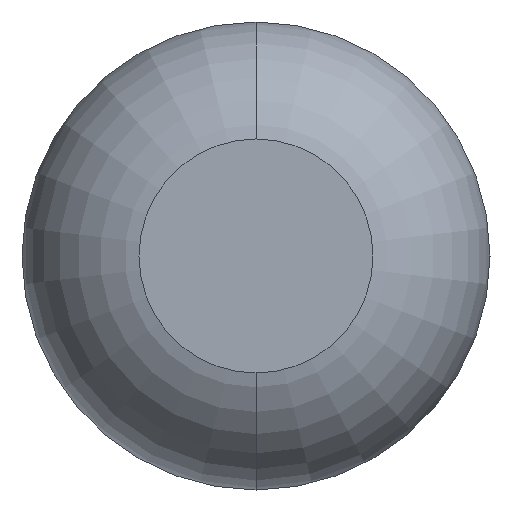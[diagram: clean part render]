
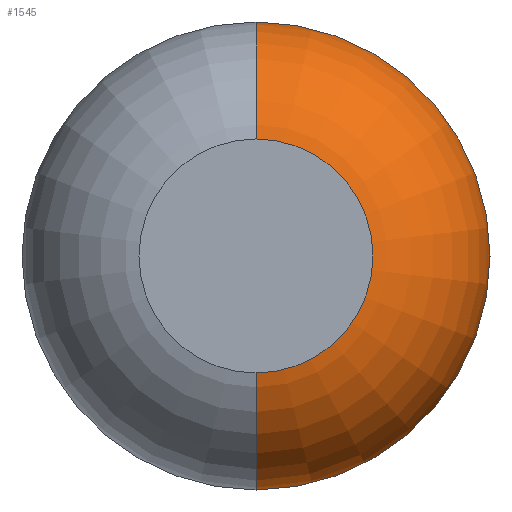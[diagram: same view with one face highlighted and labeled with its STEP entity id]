
A CAD part, front view. The second image highlights one B-rep face of the part: STEP entity #1545.
In plain terms, the highlighted toroidal (fillet/blend) face has major radius 20 mm and minor radius 40 mm.
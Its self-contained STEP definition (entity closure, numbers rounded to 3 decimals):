
#206 = ORIENTED_EDGE ( 'NONE', *, *, #2215, .F. ) ;
#228 = AXIS2_PLACEMENT_3D ( 'NONE', #661, #3096, #1642 ) ;
#269 = FACE_OUTER_BOUND ( 'NONE', #1591, .T. ) ;
#283 = CARTESIAN_POINT ( 'NONE',  ( 0., 0., 20. ) ) ;
#294 = CIRCLE ( 'NONE', #697, 60. ) ;
#297 = AXIS2_PLACEMENT_3D ( 'NONE', #1852, #635, #2092 ) ;
#477 = CARTESIAN_POINT ( 'NONE',  ( 0., 40., -20. ) ) ;
#486 = VERTEX_POINT ( 'NONE', #2648 ) ;
#635 = DIRECTION ( 'NONE',  ( 0., -1., 0. ) ) ;
#661 = CARTESIAN_POINT ( 'NONE',  ( 0., 40., 20. ) ) ;
#697 = AXIS2_PLACEMENT_3D ( 'NONE', #1523, #2577, #3045 ) ;
#1088 = EDGE_CURVE ( 'NONE', #2206, #486, #294, .T. ) ;
#1120 = CARTESIAN_POINT ( 'NONE',  ( 0., 0., -20. ) ) ;
#1247 = CARTESIAN_POINT ( 'NONE',  ( 0., 40., 0. ) ) ;
#1266 = CIRCLE ( 'NONE', #297, 20. ) ;
#1437 = DIRECTION ( 'NONE',  ( 0., -1., 0. ) ) ;
#1453 = DIRECTION ( 'NONE',  ( -1., 0., 0. ) ) ;
#1523 = CARTESIAN_POINT ( 'NONE',  ( 0., 40., 0. ) ) ;
#1526 = AXIS2_PLACEMENT_3D ( 'NONE', #1247, #1437, #1734 ) ;
#1545 = ADVANCED_FACE ( 'NONE', ( #269 ), #2919, .T. ) ;
#1586 = ORIENTED_EDGE ( 'NONE', *, *, #3114, .T. ) ;
#1591 = EDGE_LOOP ( 'NONE', ( #1618, #1586, #206, #1975 ) ) ;
#1618 = ORIENTED_EDGE ( 'NONE', *, *, #1088, .T. ) ;
#1638 = CARTESIAN_POINT ( 'NONE',  ( 0., 40., -60. ) ) ;
#1642 = DIRECTION ( 'NONE',  ( 0., 0., -1. ) ) ;
#1716 = VERTEX_POINT ( 'NONE', #283 ) ;
#1734 = DIRECTION ( 'NONE',  ( 0., 0., -1. ) ) ;
#1815 = VERTEX_POINT ( 'NONE', #1120 ) ;
#1852 = CARTESIAN_POINT ( 'NONE',  ( 0., 0., 0. ) ) ;
#1975 = ORIENTED_EDGE ( 'NONE', *, *, #2790, .F. ) ;
#2092 = DIRECTION ( 'NONE',  ( 0., 0., -1. ) ) ;
#2206 = VERTEX_POINT ( 'NONE', #1638 ) ;
#2215 = EDGE_CURVE ( 'NONE', #1815, #1716, #1266, .T. ) ;
#2236 = AXIS2_PLACEMENT_3D ( 'NONE', #477, #1453, #2444 ) ;
#2444 = DIRECTION ( 'NONE',  ( 0., 0., 1. ) ) ;
#2544 = CIRCLE ( 'NONE', #228, 40. ) ;
#2577 = DIRECTION ( 'NONE',  ( 0., -1., 0. ) ) ;
#2648 = CARTESIAN_POINT ( 'NONE',  ( 0., 40., 60. ) ) ;
#2790 = EDGE_CURVE ( 'NONE', #2206, #1815, #3159, .T. ) ;
#2919 = TOROIDAL_SURFACE ( 'NONE', #1526, 20., 40. ) ;
#3045 = DIRECTION ( 'NONE',  ( 0., 0., -1. ) ) ;
#3096 = DIRECTION ( 'NONE',  ( 1., 0., 0. ) ) ;
#3114 = EDGE_CURVE ( 'NONE', #486, #1716, #2544, .T. ) ;
#3159 = CIRCLE ( 'NONE', #2236, 40. ) ;
